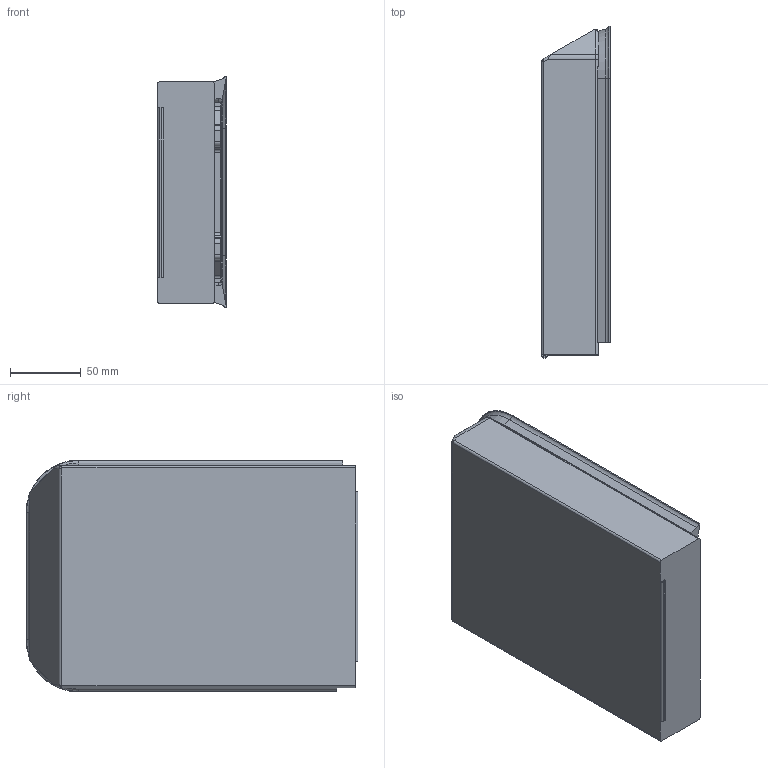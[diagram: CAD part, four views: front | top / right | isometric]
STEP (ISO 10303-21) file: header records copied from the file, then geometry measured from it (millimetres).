
FILE_DESCRIPTION (( 'STEP AP214' ), '1' );
FILE_NAME ('MRH08.STEP', '2025-01-29T14:52:03', ( '' ), ( '' ), 'SwSTEP 2.0', 'SolidWorks 2022', '' );
FILE_SCHEMA (( 'AUTOMOTIVE_DESIGN' ));
Length unit declared in the file: millimetre
Products named in the file (4): MRH08; DT-04466DSI_semplificata; DT-04465DSI_semplificata; DT-04469DSI_FF08 semplificata
Assembly tree (3 placements, depth 2):
  MRH08
    DT-04465DSI_semplificata
    DT-04466DSI_semplificata
    DT-04469DSI_FF08 semplificata
Bounding box: 48.6 x 234.85 x 163.95 mm (x, y, z)
Volume: 1486355.1 mm3; surface area: 150302 mm2
Topology: 3 solids, 3 shells, 165 faces, 429 edges, 267 vertices
Faces by surface type: cylinder 69, plane 68, torus 14, cone 8, bspline 6
Entity records: 5419 total; most frequent: CARTESIAN_POINT 1075, DIRECTION 890, ORIENTED_EDGE 854, EDGE_CURVE 427, AXIS2_PLACEMENT_3D 316, VERTEX_POINT 267, VECTOR 258, LINE 258
